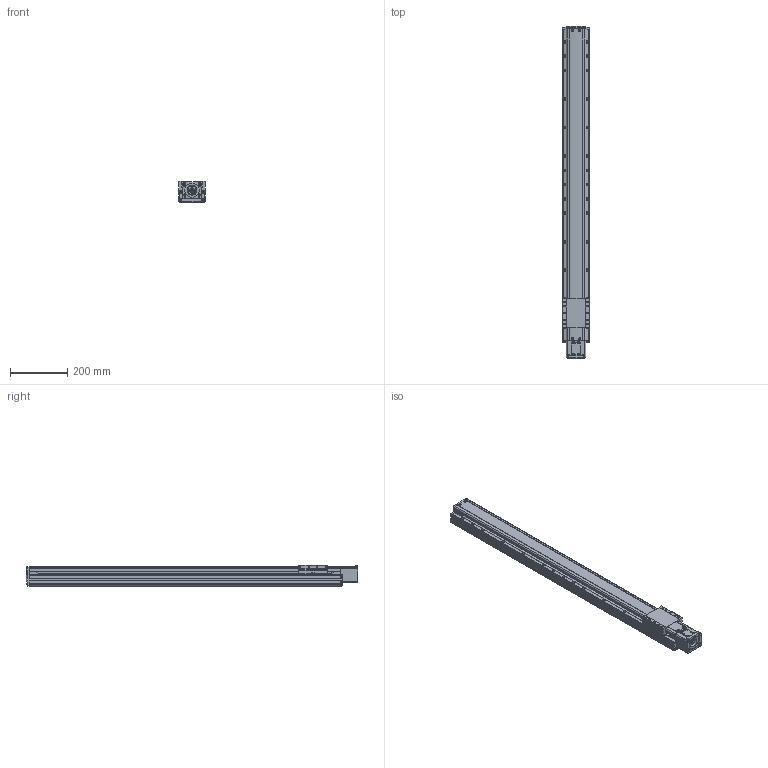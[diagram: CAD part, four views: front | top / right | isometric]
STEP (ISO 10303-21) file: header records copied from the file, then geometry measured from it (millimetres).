
FILE_DESCRIPTION(('STEP AP214'),'1');
FILE_NAME('Z:/Web/3D/PSA95/STP/PSA95-900 (3D)/PSA95ㅁㅁ-900S.stp','2014-07-03T00:50:43',(' '),(' '),'Spatial InterOp 3D',' ',' ');
FILE_SCHEMA(('automotive_design'));
Length unit declared in the file: millimetre
Products named in the file (35): BASE; RRCV; 스크루 : Round - M4.0 x 10.0; 너트 : Square - M10.0 x 220.7419; RR1500; FRCV-090; 스크루 : Round - M4.0 x 6.0; SLBL-PA90; SSFX-SAN65; CPLCV-SAN65; 스크루 : Round - M3.0 x 6.0; MTHZ-PA70/90-S60A-3; 스크루 : Socket - M4.0 x 20.0; NONE
Bounding box: 95 x 1162.5 x 74 mm (x, y, z)
Volume: 6085299.9 mm3; surface area: 633105.4 mm2
Topology: 35 solids, 69 shells, 3159 faces, 8124 edges, 5108 vertices
Faces by surface type: plane 1470, cylinder 1046, cone 407, torus 158, sphere 46, bspline 32
Entity records: 124700 total; most frequent: CARTESIAN_POINT 20655, DIRECTION 16984, ORIENTED_EDGE 15912, EDGE_CURVE 7956, AXIS2_PLACEMENT_3D 6119, VERTEX_POINT 5108, LINE 4746, VECTOR 4746
